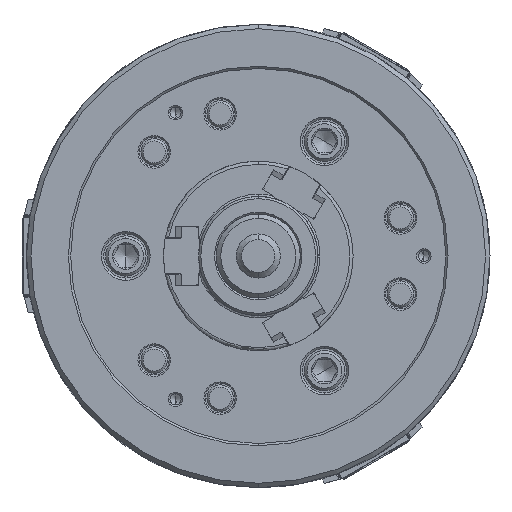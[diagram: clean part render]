
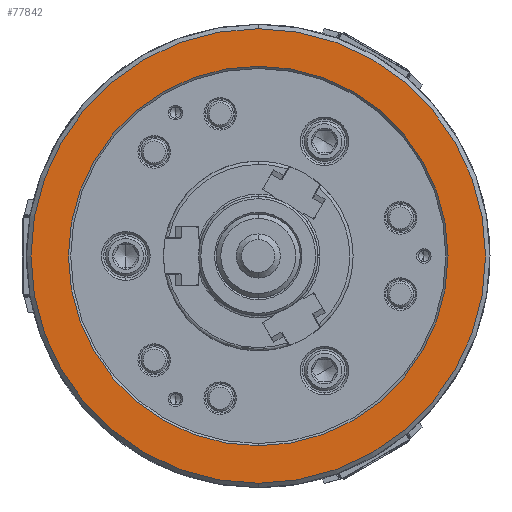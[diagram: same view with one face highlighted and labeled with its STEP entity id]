
A CAD part, left-side view. The second image highlights one B-rep face of the part: STEP entity #77842.
In plain terms, the highlighted planar face has unit normal (-1, 0, 0).
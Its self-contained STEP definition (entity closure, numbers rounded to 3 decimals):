
#3461 = DIRECTION ( 'NONE',  ( 1., 0., 0. ) ) ;
#5347 = CIRCLE ( 'NONE', #26697, 86. ) ;
#6376 = CARTESIAN_POINT ( 'NONE',  ( -85., 0., 0. ) ) ;
#11128 = CARTESIAN_POINT ( 'NONE',  ( -85., 0., -86. ) ) ;
#11836 = CARTESIAN_POINT ( 'NONE',  ( -85., 0., 0. ) ) ;
#12731 = CARTESIAN_POINT ( 'NONE',  ( -85., 0., 86. ) ) ;
#15704 = CIRCLE ( 'NONE', #29939, 86. ) ;
#16940 = CARTESIAN_POINT ( 'NONE',  ( -85., 0., -103. ) ) ;
#17868 = DIRECTION ( 'NONE',  ( 1., 0., 0. ) ) ;
#22505 = ORIENTED_EDGE ( 'NONE', *, *, #73004, .F. ) ;
#23070 = FACE_BOUND ( 'NONE', #88362, .T. ) ;
#24547 = CIRCLE ( 'NONE', #99355, 103. ) ;
#26697 = AXIS2_PLACEMENT_3D ( 'NONE', #11836, #3461, #37537 ) ;
#29802 = EDGE_LOOP ( 'NONE', ( #72219, #22505 ) ) ;
#29939 = AXIS2_PLACEMENT_3D ( 'NONE', #52523, #17868, #34095 ) ;
#30341 = FACE_OUTER_BOUND ( 'NONE', #29802, .T. ) ;
#34095 = DIRECTION ( 'NONE',  ( 0., 0., -1. ) ) ;
#34255 = DIRECTION ( 'NONE',  ( 1., 0., 0. ) ) ;
#35673 = CARTESIAN_POINT ( 'NONE',  ( -85., 0., 0. ) ) ;
#36332 = VERTEX_POINT ( 'NONE', #55943 ) ;
#37537 = DIRECTION ( 'NONE',  ( 0., 0., -1. ) ) ;
#39961 = AXIS2_PLACEMENT_3D ( 'NONE', #48784, #80649, #82844 ) ;
#48784 = CARTESIAN_POINT ( 'NONE',  ( -85., -103., 0. ) ) ;
#52523 = CARTESIAN_POINT ( 'NONE',  ( -85., 0., 0. ) ) ;
#55943 = CARTESIAN_POINT ( 'NONE',  ( -85., 0., 103. ) ) ;
#59196 = CIRCLE ( 'NONE', #60954, 103. ) ;
#60954 = AXIS2_PLACEMENT_3D ( 'NONE', #6376, #34255, #102328 ) ;
#63552 = DIRECTION ( 'NONE',  ( 1., 0., 0. ) ) ;
#70217 = VERTEX_POINT ( 'NONE', #12731 ) ;
#72219 = ORIENTED_EDGE ( 'NONE', *, *, #82641, .F. ) ;
#73004 = EDGE_CURVE ( 'NONE', #36332, #91516, #59196, .T. ) ;
#77842 = ADVANCED_FACE ( 'NONE', ( #30341, #23070 ), #91188, .F. ) ;
#80649 = DIRECTION ( 'NONE',  ( 1., 0., 0. ) ) ;
#82641 = EDGE_CURVE ( 'NONE', #91516, #36332, #24547, .T. ) ;
#82844 = DIRECTION ( 'NONE',  ( 0., 0., -1. ) ) ;
#86182 = EDGE_CURVE ( 'NONE', #70217, #102059, #15704, .T. ) ;
#86940 = ORIENTED_EDGE ( 'NONE', *, *, #105248, .T. ) ;
#88362 = EDGE_LOOP ( 'NONE', ( #102229, #86940 ) ) ;
#91188 = PLANE ( 'NONE',  #39961 ) ;
#91516 = VERTEX_POINT ( 'NONE', #16940 ) ;
#96457 = DIRECTION ( 'NONE',  ( 0., 0., -1. ) ) ;
#99355 = AXIS2_PLACEMENT_3D ( 'NONE', #35673, #63552, #96457 ) ;
#102059 = VERTEX_POINT ( 'NONE', #11128 ) ;
#102229 = ORIENTED_EDGE ( 'NONE', *, *, #86182, .T. ) ;
#102328 = DIRECTION ( 'NONE',  ( 0., 0., -1. ) ) ;
#105248 = EDGE_CURVE ( 'NONE', #102059, #70217, #5347, .T. ) ;
